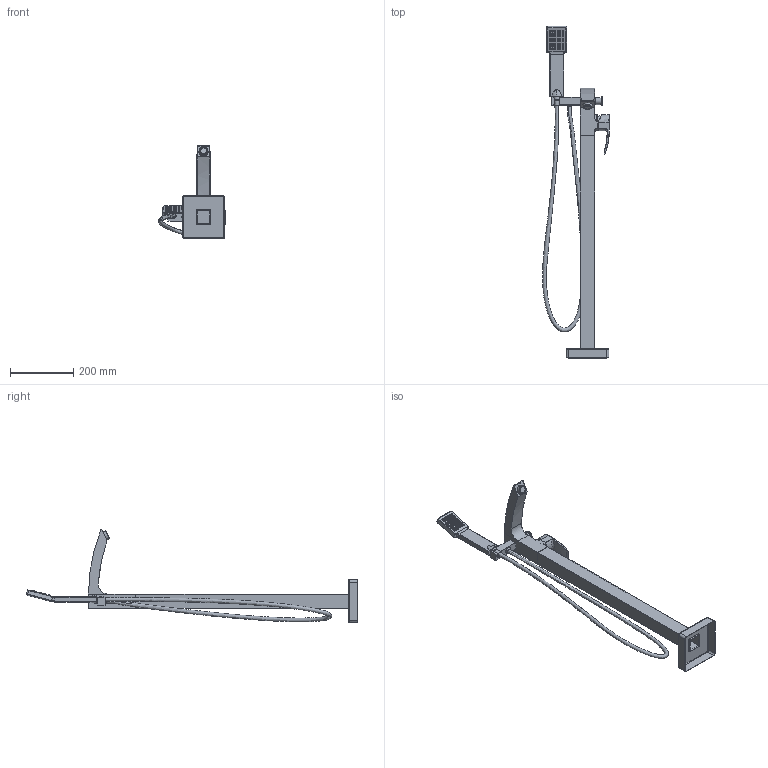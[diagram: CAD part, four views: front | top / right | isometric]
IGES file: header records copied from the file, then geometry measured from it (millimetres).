
Global section: file name: d1121809-3715-443b-933a-9cc86237e4c3; native system: unknown; preprocessor: unknown; author: unknown; organization: unknown; date: 20191210.084744; units: millimetre
Bounding box: 211.87 x 1050.88 x 294.42 mm (x, y, z)
Volume: 762527.7 mm3; surface area: 551125 mm2
Topology: 12 solids, 14 shells, 1339 faces, 3047 edges, 1818 vertices
Faces by surface type: bspline 1339
